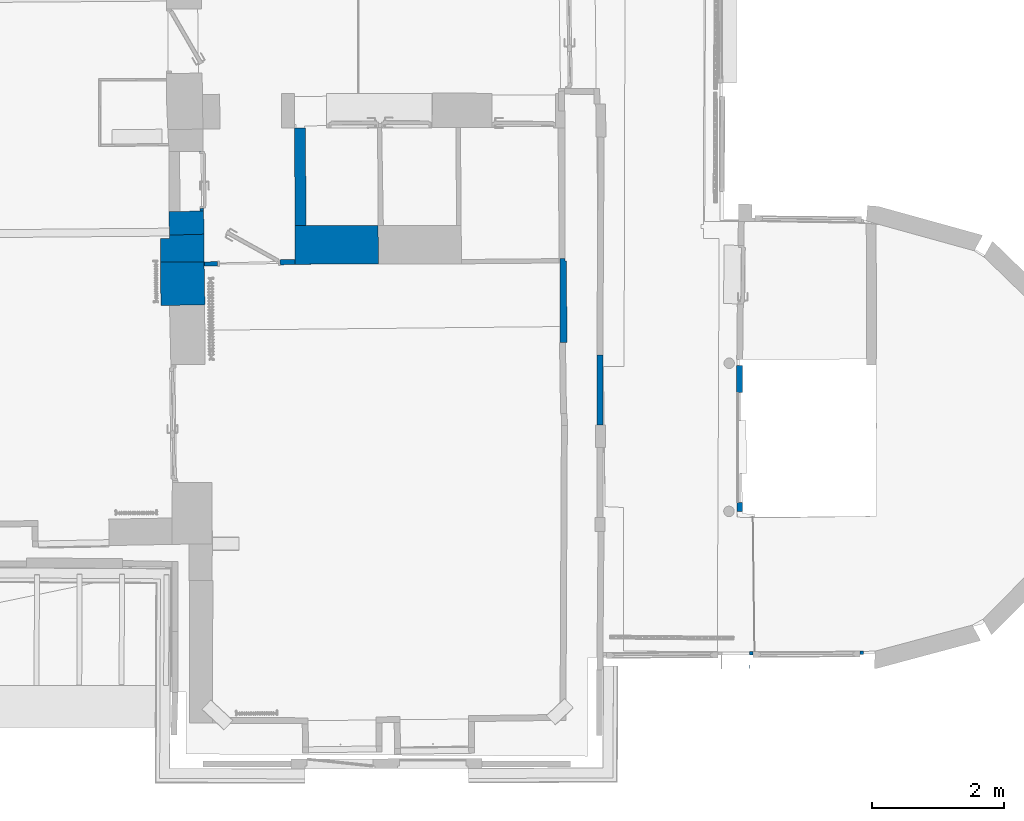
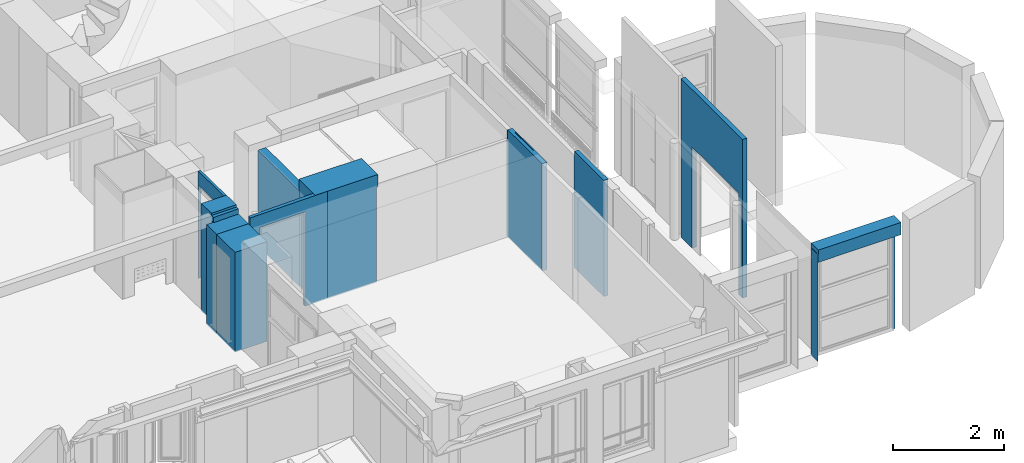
# One storey, part 15 of 72: 11 walls, 4 openings.
"""IFC2X3 building model written with IfcOpenShell, lengths in centimetres."""

from ifc_helpers import new_model, entity, si_unit, converted_unit, direction, frame, origin, origin_with_axes, origin_2d_with_axis, place, context, subcontext, project, spatial, polyline, rectangle, outline, extrude, clip, bounded_halfspace, faceted_brep, shape, material, layer, layer_set, layer_usage, type_object, element, save


model = new_model("IFC2X3")

# Units and contexts
model_context = context("Model", 3, precision=0.0001, world=origin(), true_north=direction((0.225632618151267, 0.974212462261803, 0.0)))
body_context = subcontext(model_context, "Body", "Model", "MODEL_VIEW")
footprint_context = subcontext(model_context, "FootPrint", "Model", "MODEL_VIEW")
profile_context = subcontext(model_context, "Profile", "Model", "MODEL_VIEW")
ifc_project = project(units=[si_unit("LENGTHUNIT", "METRE", prefix="CENTI"), si_unit("AREAUNIT", "SQUARE_METRE", prefix="CENTI"), si_unit("VOLUMEUNIT", "CUBIC_METRE", prefix="CENTI"), converted_unit("PLANEANGLEUNIT", "DEGREE", entity("IfcRatioMeasure", 0.0174532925), si_unit("PLANEANGLEUNIT", "RADIAN"), dimensions=[0, 0, 0, 0, 0, 0, 0])], contexts=[model_context])

# Site, building, storey
site_placement = place(None, origin_with_axes())
site = spatial("IfcSite", under=ifc_project, at=site_placement, Name="Default Site", CompositionType="ELEMENT")
building_placement = place(site_placement, origin_with_axes())
building = spatial("IfcBuilding", under=site, at=building_placement, Name="Default Building", CompositionType="ELEMENT")
storey_placement = place(building_placement, frame((0.0, 0.0, 853.910374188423), z_axis=(0.0, 0.0, 1.0), x_axis=(1.0, 0.0, 0.0)))
storey = spatial("IfcBuildingStorey", under=building, at=storey_placement, Name="Niveau 2", CompositionType="ELEMENT", Elevation=853.910374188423)

# Wall, opening
ifc_material = material(Name="<aucun>")
ifc_layer_1 = layer(ifc_material, 26.0)
ifc_layer_set_1 = layer_set([ifc_layer_1], Name="default")
ifc_layer_usage_1 = layer_usage(ifc_layer_set_1, "AXIS2", "POSITIVE", -13.0)
wall_type_1 = type_object("IfcWallType", Name="default 260", PredefinedType="NOTDEFINED", material=ifc_layer_set_1)
wall_1_placement = place(storey_placement, frame((1116.8410202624, -885.676642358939, 7.46069872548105e-12), z_axis=(0.0, 0.0, 1.0), x_axis=(0.999994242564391, 0.0033933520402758, 0.0)))
wall_1 = element("IfcWallStandardCase", 1, at=wall_1_placement, inside=storey, type_object=wall_type_1, material=ifc_layer_usage_1, Name="Enveloppe 537518", context=body_context, shape_type="Clipping", body=[
    clip(extrude(outline(polyline([(-0.336796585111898, 13.0054665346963), (-0.0651161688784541, -12.9997790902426), (172.02307407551, -13.000252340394), (172.02307407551, 13.0000000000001), (-0.336796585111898, 13.0054665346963)])), frame((0.0, 0.0, -7.28306304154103e-12), z_axis=(0.0, 0.0, 1.0), x_axis=(1.0, 0.0, 0.0)), (0.0, 0.0, 1.0), 244.999999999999), bounded_halfspace(frame((-0.0651206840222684, -13.0011096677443, 234.999999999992), z_axis=(0.0, 0.0, -1.0), x_axis=(0.99985477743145, 0.0170418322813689, 0.0)), True, frame((-0.0651206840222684, -13.0011096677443, 234.999999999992), z_axis=(0.0, 0.0, 1.0), x_axis=(1.0, 0.0, 0.0)), polyline([(-0.27167590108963, 26.0065762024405), (0.0, 0.0), (0.0651048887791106, 0.00110966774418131), (0.0651206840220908, 26.0063395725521), (-0.27167590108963, 26.0065762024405)]))),
])
opening_1_placement = place(wall_1_placement, frame((-0.00786989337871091, 1.13686837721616e-13, -1.79412040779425e-13), z_axis=(0.0, 0.0, 1.0), x_axis=(-1.0, 1.36522737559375e-15, 0.0)))
cartesian_point_1 = entity("IfcCartesianPoint", [0.0, 0.0, 218.0])
cartesian_point_2 = entity("IfcCartesianPoint", [-172.091475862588, -12.9999999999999])
element("IfcOpeningElement", 2, at=opening_1_placement, cuts=wall_1, Name="4294966489_11", ObjectType="Opening", shapes=[
    shape(body_context, "Body", "Brep", [faceted_brep([(-5.00003132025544, -32.9999991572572, 218.000007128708), (-167.091456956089, -32.9999991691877, 218.000007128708), (-167.091456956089, -32.9999991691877, -2.33888698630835e-05), (-5.00003132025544, -32.9999991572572, -2.33888698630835e-05), (-0.00786043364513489, 33.0000193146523, -2.33888698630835e-05), (-172.091466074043, 33.0000193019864, -2.33888698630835e-05), (-172.091466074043, 33.0000193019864, 218.000007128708), (-0.00786043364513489, 33.0000193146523, 218.000007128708), (-5.00003132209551, -8.00004613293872, -2.33888698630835e-05), (-5.00003132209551, -8.00004613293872, 218.000007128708), (-4.99997932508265, -8.00004613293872, 218.000007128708), (-4.99997932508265, -8.00004613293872, -2.33888698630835e-05), (-2.68022489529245e-05, -8.00004613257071, -2.33888698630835e-05), (-2.68022489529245e-05, -8.00004613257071, 218.000007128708), (-2.68022489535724e-05, -8.00003732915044, 218.000007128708), (-2.68022489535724e-05, -8.00003732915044, -2.33888698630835e-05), (-2.68052666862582e-05, 32.9999927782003, -2.33888698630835e-05), (-2.68052666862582e-05, 32.9999927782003, 218.000007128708), (-167.091456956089, -33.0000452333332, -2.33888698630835e-05), (-167.091500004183, -7.99999651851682, -2.33888698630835e-05), (-172.091452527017, -8.00000532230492, -2.33888698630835e-05), (-172.091466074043, 33.0000247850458, -2.33888698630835e-05), (-4.03492744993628e-05, 32.9999927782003, -2.33888698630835e-05), (-167.091456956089, -33.0000452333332, 218.000007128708), (-167.091456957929, -7.99999651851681, 218.000007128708), (-167.091456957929, -7.99999651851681, -2.33888698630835e-05), (-167.091500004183, -7.99999651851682, 218.000007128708), (-172.091452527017, -7.99999651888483, 218.000007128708), (-172.091452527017, -7.99999651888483, -2.33888698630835e-05), (-172.091452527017, -8.00000532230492, 218.000007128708), (-172.091452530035, 33.0000247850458, 218.000007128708), (-172.091452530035, 33.0000247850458, -2.33888698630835e-05), (-4.03492744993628e-05, 32.9999927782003, 218.000007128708), (-172.091466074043, 33.0000247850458, 218.000007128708)], [[[0, 1, 2, 3]], [[4, 5, 6, 7]], [[0, 3, 8, 9]], [[10, 11, 12, 13]], [[14, 15, 16, 17]], [[3, 18, 19, 20, 21, 22, 15, 11]], [[18, 23, 24, 25]], [[19, 26, 27, 28]], [[20, 29, 30, 31]], [[10, 14, 32, 33, 29, 26, 23, 0]]])]),
    shape(profile_context, "Profile", "GeometricCurveSet", [entity("IfcGeometricCurveSet", [entity("IfcPolyline", [cartesian_point_1, entity("IfcCartesianPoint", [0.0, 0.0, -1.77635683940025e-13]), entity("IfcCartesianPoint", [-172.091475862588, 1.77635683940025e-13, -1.77635683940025e-13]), entity("IfcCartesianPoint", [-172.091475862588, 1.77635683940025e-13, 218.0]), cartesian_point_1])])]),
    shape(footprint_context, "FootPrint", "GeometricCurveSet", [entity("IfcGeometricCurveSet", [entity("IfcPolyline", [cartesian_point_2, entity("IfcCartesianPoint", [0.0, -13.0000000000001]), entity("IfcCartesianPoint", [-1.77635683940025e-13, 13.0000000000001]), entity("IfcCartesianPoint", [-172.091475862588, 13.0000000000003]), cartesian_point_2])])]),
])

# Wall
ifc_layer_2 = layer(ifc_material, 9.0)
ifc_layer_set_2 = layer_set([ifc_layer_2], Name="default")
ifc_layer_usage_2 = layer_usage(ifc_layer_set_2, "AXIS2", "POSITIVE", -4.5)
wall_type_2 = type_object("IfcWallType", Name="default 90", PredefinedType="NOTDEFINED", material=ifc_layer_set_2)
wall_2_placement = place(storey_placement, frame((889.982516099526, -529.735904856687, -1.95399252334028e-11), z_axis=(0.0, 0.0, 1.0), x_axis=(0.000515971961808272, 0.999999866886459, 0.0)))
element("IfcWallStandardCase", 3, at=wall_2_placement, inside=storey, type_object=wall_type_2, material=ifc_layer_usage_2, Name="Enveloppe 462850", context=body_context, shape_type="Clipping", body=[
    clip(clip(extrude(outline(polyline([(105.996942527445, 4.56889412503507), (105.996978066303, 4.50001663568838), (0.100191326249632, 4.49999999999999), (0.100191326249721, -4.49999999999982), (105.964772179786, -4.49999664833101), (105.964736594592, -4.43102935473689), (106.059335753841, -4.43098054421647), (106.110050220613, 4.56825676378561), (105.996942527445, 4.56889412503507)])), frame((0.0, 0.0, 1.98951966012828e-11), z_axis=(0.0, 0.0, 1.0), x_axis=(1.0, 0.0, 0.0)), (0.0, 0.0, 1.0), 254.621625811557), bounded_halfspace(frame((105.964736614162, -4.4999999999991, 245.000000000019), z_axis=(0.0, 0.0, 1.0), x_axis=(-0.0890524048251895, 0.9960269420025, 0.0)), True, frame((105.964736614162, -4.4999999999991, 245.000000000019), z_axis=(0.0, 0.0, 1.0), x_axis=(1.0, 0.0, 0.0)), polyline([(8.88178419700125e-14, 0.0), (8.88178419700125e-14, 0.0689327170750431), (8.88178419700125e-14, 0.0)]))), bounded_halfspace(frame((106.110050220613, 4.56825676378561, 245.000000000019), z_axis=(0.0, 0.0, -1.0), x_axis=(-0.999984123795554, 0.00563490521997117, 0.0)), True, frame((106.110050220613, 4.56825676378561, 245.000000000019), z_axis=(0.0, 0.0, 1.0), x_axis=(1.0, 0.0, 0.0)), polyline([(-0.145313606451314, -8.99932404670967), (-0.0507141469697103, -8.99985711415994), (1.77635683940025e-13, 0.0), (-0.113107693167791, 0.000637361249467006), (-0.113401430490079, -0.0682567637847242), (-0.145313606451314, -0.0682567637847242), (-0.145313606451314, -8.99932404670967)]))),
])

# Wall, opening
ifc_layer_usage_3 = layer_usage(ifc_layer_set_2, "AXIS2", "POSITIVE", -4.5)
wall_3_placement = place(storey_placement, frame((1101.7308929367, -669.370983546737, 1.99999999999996), z_axis=(0.0, 0.0, 1.0), x_axis=(-0.000462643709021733, 0.999999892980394, 0.0)))
wall_3 = element("IfcWallStandardCase", 4, at=wall_3_placement, inside=storey, type_object=wall_type_2, material=ifc_layer_usage_3, Name="Enveloppe 1528659", context=body_context, shape_type="SweptSolid", body=[
    extrude(outline(polyline([(229.6970725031, 4.50000000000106), (8.68817364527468, 4.49999999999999), (8.728404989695, -4.49999999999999), (229.714215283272, -4.49999999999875), (229.6970725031, 4.50000000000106)])), frame((0.0, 0.0, -3.5527136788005e-13), z_axis=(0.0, 0.0, 1.0), x_axis=(1.0, 0.0, 0.0)), (0.0, 0.0, 1.0), 347.702416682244),
])
opening_2_placement = place(wall_3_placement, frame((22.0887177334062, 0.0, -5.31130694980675e-13), z_axis=(0.0, 0.0, 1.0), x_axis=(-1.0, -5.98577177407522e-15, 0.0)))
cartesian_point_3 = entity("IfcCartesianPoint", [0.0, 0.0, 221.6])
cartesian_point_4 = entity("IfcCartesianPoint", [-166.962547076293, -4.49999999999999])
element("IfcOpeningElement", 5, at=opening_2_placement, cuts=wall_3, Name="Baie 1533937", ObjectType="Opening", shapes=[
    shape(body_context, "Body", "SweptSolid", [extrude(outline(polyline([(8.88178419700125e-14, 221.6), (8.88178419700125e-14, -1.77635683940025e-13), (166.962547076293, -1.77635683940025e-13), (166.962547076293, 221.6), (8.88178419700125e-14, 221.6)])), frame((0.0, -14.5, 0.0), z_axis=(0.0, 1.0, 0.0), x_axis=(-1.0, 0.0, 0.0)), (0.0, 0.0, 1.0), 29.0)]),
    shape(profile_context, "Profile", "GeometricCurveSet", [entity("IfcGeometricCurveSet", [entity("IfcPolyline", [cartesian_point_3, entity("IfcCartesianPoint", [0.0, 0.0, -1.77635683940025e-13]), entity("IfcCartesianPoint", [-166.962547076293, 0.0, -1.77635683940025e-13]), entity("IfcCartesianPoint", [-166.962547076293, 0.0, 221.6]), cartesian_point_3])])]),
    shape(footprint_context, "FootPrint", "GeometricCurveSet", [entity("IfcGeometricCurveSet", [entity("IfcPolyline", [cartesian_point_4, entity("IfcCartesianPoint", [-8.88178419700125e-14, -4.49999999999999]), entity("IfcCartesianPoint", [0.0, 4.49999999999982]), entity("IfcCartesianPoint", [-166.962547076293, 4.49999999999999]), cartesian_point_4])])]),
])

# Wall
ifc_layer_usage_4 = layer_usage(ifc_layer_set_2, "AXIS2", "POSITIVE", -4.5)
wall_4_placement = place(storey_placement, frame((834.359518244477, -404.942311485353, 1.4210854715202e-12), z_axis=(0.0, 0.0, 1.0), x_axis=(-0.00236515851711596, 0.999997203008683, 0.0)))
element("IfcWallStandardCase", 6, at=wall_4_placement, inside=storey, type_object=wall_type_2, material=ifc_layer_usage_4, Name="Enveloppe 150644", context=body_context, shape_type="Clipping", body=[
    clip(clip(clip(extrude(outline(polyline([(123.387647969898, 5.59363078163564), (123.394996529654, 4.50009262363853), (0.0, 4.49999999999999), (-8.88178419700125e-14, -5.86290742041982), (123.387304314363, -5.41801467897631), (123.387305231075, -3.40633806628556), (127.156160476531, -3.41152562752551), (127.1029778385, 4.49999999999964), (123.434158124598, 4.49999999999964), (123.426807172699, 5.59353816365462), (123.387647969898, 5.59363078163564)])), frame((0.0, 0.0, -3.5527136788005e-13), z_axis=(0.0, 0.0, 1.0), x_axis=(1.0, 0.0, 0.0)), (0.0, 0.0, 1.0), 234.999999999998), bounded_halfspace(frame((123.387647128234, 5.59327492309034, 214.999999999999), z_axis=(0.0, 0.0, 1.0), x_axis=(0.999977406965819, 0.00672202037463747, 0.0)), True, frame((123.387647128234, 5.59327492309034, 214.999999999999), z_axis=(0.0, 0.0, 1.0), x_axis=(1.0, 0.0, 0.0)), polyline([(0.00734918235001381, -1.0932749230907), (-4.44089209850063e-14, -1.77635683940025e-13), (0.0391600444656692, 0.000263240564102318), (0.0465109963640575, -1.09327492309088), (0.00734918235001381, -1.0932749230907)]))), bounded_halfspace(frame((33.7815067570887, -3.12570763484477, 209.999999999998), z_axis=(0.0, 0.0, -1.0), x_axis=(0.000322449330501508, -0.999999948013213, 0.0)), True, frame((33.7815067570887, -3.12570763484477, 209.999999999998), z_axis=(0.0, 0.0, 1.0), x_axis=(1.0, 0.0, 0.0)), polyline([(9.9930702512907e-05, -0.309911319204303), (75.1492245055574, -0.285679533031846), (75.1488259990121, 0.950193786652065), (0.0, -1.77635683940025e-13), (9.9930702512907e-05, -0.309911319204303)]))), bounded_halfspace(frame((123.434158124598, 4.49999999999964, 214.999999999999), z_axis=(0.0, 0.0, -1.0), x_axis=(0.00672202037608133, -0.999977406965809, 0.0)), True, frame((123.434158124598, 4.49999999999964, 214.999999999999), z_axis=(0.0, 0.0, 1.0), x_axis=(1.0, 0.0, 0.0)), polyline([(-4.44089209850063e-14, -1.77635683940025e-13), (0.053149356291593, -7.90657458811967), (3.72200235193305, -7.91152562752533), (3.66881971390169, -1.77635683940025e-13), (-4.44089209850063e-14, -1.77635683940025e-13)]))),
])

# Wall, opening
ifc_layer_3 = layer(ifc_material, 6.5)
ifc_layer_set_3 = layer_set([ifc_layer_3], Name="default")
ifc_layer_usage_5 = layer_usage(ifc_layer_set_3, "AXIS2", "POSITIVE", -3.25)
wall_type_3 = type_object("IfcWallType", Name="default 65", PredefinedType="NOTDEFINED", material=ifc_layer_set_3)
wall_5_placement = place(storey_placement, frame((291.124762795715, -286.269680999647, 1.4210854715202e-12), z_axis=(0.0, 0.0, 1.0), x_axis=(0.999829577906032, 0.0184611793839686, 0.0)))
wall_5 = element("IfcWallStandardCase", 7, at=wall_5_placement, inside=storey, type_object=wall_type_3, material=ifc_layer_usage_5, Name="Enveloppe 150684", context=body_context, shape_type="Clipping", body=[
    clip(clip(extrude(outline(polyline([(0.0, 3.24999999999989), (-4.44089209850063e-14, -3.24999999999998), (162.203874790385, -3.24999999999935), (137.831291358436, -2.83401987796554), (137.831291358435, 4.64920562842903), (0.0, 3.24999999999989)])), frame((0.0, 0.0, -3.5527136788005e-13), z_axis=(0.0, 0.0, 1.0), x_axis=(1.0, 0.0, 0.0)), (0.0, 0.0, 1.0), 234.999999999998), bounded_halfspace(frame((0.0, 3.24999999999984, 218.5), z_axis=(0.0, 0.0, 1.0), x_axis=(0.999948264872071, 0.0101719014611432, 0.0)), True, frame((0.0, 3.24999999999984, 218.5), z_axis=(0.0, 0.0, 1.0), x_axis=(1.0, 0.0, 0.0)), polyline([(-8.88178419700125e-14, -6.49999999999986), (0.0, -4.44089209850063e-14), (0.204539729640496, 0.00208066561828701), (0.104233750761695, -6.49999999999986), (-8.88178419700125e-14, -6.49999999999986)]))), bounded_halfspace(frame((137.831291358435, 4.64920562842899, 208.999999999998), z_axis=(0.0, 0.0, -1.0), x_axis=(-0.999948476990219, -0.0101510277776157, 0.0)), True, frame((137.831291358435, 4.64920562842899, 208.999999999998), z_axis=(0.0, 0.0, 1.0), x_axis=(1.0, 0.0, 0.0)), polyline([(-1.11068026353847, -7.46426892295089), (8.88178419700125e-14, -7.48322550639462), (8.88178419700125e-14, 0.0), (-1.11068026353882, -0.0112751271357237), (-1.11068026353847, -7.46426892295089)]))),
])
opening_3_placement = place(wall_5_placement, frame((20.4906268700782, 0.0, 0.0), z_axis=(0.0, 0.0, 1.0), x_axis=(1.0, 4.09394740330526e-15, 0.0)))
cartesian_point_5 = entity("IfcCartesianPoint", [4.44089209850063e-14, 4.44089209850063e-14, 207.0])
cartesian_point_6 = entity("IfcCartesianPoint", [94.6708195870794, 4.42147149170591])
element("IfcOpeningElement", 8, at=opening_3_placement, cuts=wall_5, Name="4294966406_11", ObjectType="Opening", shapes=[
    shape(body_context, "Body", "SweptSolid", [extrude(outline(polyline([(-0.00106008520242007, 207.0), (-0.00106008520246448, 0.0), (94.6648616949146, 0.0), (94.6648616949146, 207.0), (-0.00106008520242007, 207.0)])), frame((0.0, 13.25, 0.0), z_axis=(0.0, -1.0, 0.0), x_axis=(1.0, 0.0, 0.0)), (0.0, 0.0, 1.0), 27.902078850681)]),
    shape(profile_context, "Profile", "GeometricCurveSet", [entity("IfcGeometricCurveSet", [entity("IfcPolyline", [cartesian_point_5, entity("IfcCartesianPoint", [0.0, 4.44089209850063e-14, 0.0]), entity("IfcCartesianPoint", [94.6708195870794, 0.0, 0.0]), entity("IfcCartesianPoint", [94.6708195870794, 0.0, 207.0]), cartesian_point_5])])]),
    shape(footprint_context, "FootPrint", "GeometricCurveSet", [entity("IfcGeometricCurveSet", [entity("IfcPolyline", [cartesian_point_6, entity("IfcCartesianPoint", [0.0, 3.45843942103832]), entity("IfcCartesianPoint", [0.0, -3.25000000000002]), entity("IfcCartesianPoint", [94.6708195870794, -3.24999999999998]), cartesian_point_6])])]),
])

ifc_layer_4 = layer(ifc_material, 5.0)
ifc_layer_set_4 = layer_set([ifc_layer_4], Name="default")
ifc_layer_usage_6 = layer_usage(ifc_layer_set_4, "AXIS2", "POSITIVE", -2.5)
wall_type_4 = type_object("IfcWallType", Name="default 50", PredefinedType="NOTDEFINED", material=ifc_layer_set_4)
wall_6_placement = place(storey_placement, frame((287.522910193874, -206.23570437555, 1.4210854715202e-12), z_axis=(0.0, 0.0, 1.0), x_axis=(-0.0117630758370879, 0.99993081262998, 0.0)))
wall_6 = element("IfcWallStandardCase", 9, at=wall_6_placement, inside=storey, type_object=wall_type_4, material=ifc_layer_usage_6, Name="Enveloppe 152355", context=body_context, shape_type="SweptSolid", body=[
    extrude(rectangle(XDim=5.00000000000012, YDim=90.4563549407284, at=origin_2d_with_axis()), frame((45.2469742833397, 3.99680288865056e-13, 0.0), z_axis=(0.0, 0.0, 1.0), x_axis=(-3.13984949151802e-16, -1.0, 0.0)), (0.0, 0.0, 1.0), 234.999999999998),
])
opening_4_placement = place(wall_6_placement, frame((4.44700015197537, -5.6843418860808e-14, 1.77635683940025e-13), z_axis=(0.0, 0.0, 1.0), x_axis=(-1.0, -8.84882445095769e-15, 0.0)))
cartesian_point_7 = entity("IfcCartesianPoint", [-4.44089209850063e-14, 0.0, 204.0])
cartesian_point_8 = entity("IfcCartesianPoint", [-85.5365855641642, -2.49999999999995])
element("IfcOpeningElement", 10, at=opening_4_placement, cuts=wall_6, Name="4294966407_11", ObjectType="Opening", shapes=[
    shape(body_context, "Body", "SweptSolid", [extrude(outline(polyline([(8.88178419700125e-14, 204.0), (4.44089209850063e-14, 0.0), (85.5365855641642, 0.0), (85.5365855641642, 204.0), (8.88178419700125e-14, 204.0)])), frame((0.0, -12.5, 0.0), z_axis=(0.0, 1.0, 0.0), x_axis=(-1.0, 0.0, 0.0)), (0.0, 0.0, 1.0), 25.0)]),
    shape(profile_context, "Profile", "GeometricCurveSet", [entity("IfcGeometricCurveSet", [entity("IfcPolyline", [cartesian_point_7, entity("IfcCartesianPoint", [0.0, 0.0, 0.0]), entity("IfcCartesianPoint", [-85.5365855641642, 4.44089209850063e-14, 0.0]), entity("IfcCartesianPoint", [-85.5365855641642, 4.44089209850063e-14, 204.0]), cartesian_point_7])])]),
    shape(footprint_context, "FootPrint", "GeometricCurveSet", [entity("IfcGeometricCurveSet", [entity("IfcPolyline", [cartesian_point_8, entity("IfcCartesianPoint", [-4.44089209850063e-14, -2.49999999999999]), entity("IfcCartesianPoint", [0.0, 2.49999999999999]), entity("IfcCartesianPoint", [-85.5365855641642, 2.50000000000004]), cartesian_point_8])])]),
])

# Walls
ifc_layer_5 = layer(ifc_material, 58.5635131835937)
ifc_layer_set_5 = layer_set([ifc_layer_5], Name="default")
ifc_layer_usage_7 = layer_usage(ifc_layer_set_5, "AXIS2", "POSITIVE", -29.282)
wall_type_5 = type_object("IfcWallType", Name="default 585.635131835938", PredefinedType="NOTDEFINED", material=ifc_layer_set_5)
wall_7_placement = place(storey_placement, frame((427.705921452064, -257.278689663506, 1.4210854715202e-12), z_axis=(0.0, 0.0, 1.0), x_axis=(0.999999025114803, 0.00139634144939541, 0.0)))
element("IfcWallStandardCase", 11, at=wall_7_placement, inside=storey, type_object=wall_type_5, material=ifc_layer_usage_7, Name="Enveloppe 205508", context=body_context, shape_type="Clipping", body=[
    clip(clip(clip(extrude(outline(polyline([(8.88178419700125e-14, 29.2817573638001), (8.88178419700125e-14, -21.8269992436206), (0.127234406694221, -29.2817573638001), (130.242979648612, -29.2817573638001), (130.242979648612, 29.2817573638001), (8.88178419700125e-14, 29.2817573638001)])), frame((0.0, 0.0, -5.32907051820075e-13), z_axis=(0.0, 0.0, 1.0), x_axis=(1.0, 0.0, 0.0)), (0.0, 0.0, 1.0), 234.999999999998), bounded_halfspace(frame((126.920228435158, 29.2817573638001, 208.0), z_axis=(0.0, 0.0, 1.0), x_axis=(1.0, 1.15077218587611e-15, 0.0)), True, frame((126.920228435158, 29.2817573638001, 208.0), z_axis=(0.0, 0.0, 1.0), x_axis=(1.0, 0.0, 0.0)), polyline([(0.0, -58.5635147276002), (8.88178419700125e-14, 0.0), (3.32275121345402, 0.0), (3.32275121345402, -58.5635147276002), (0.0, -58.5635147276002)]))), bounded_halfspace(frame((8.88178419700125e-14, -21.8269992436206, 208.999999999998), z_axis=(0.0, 0.0, 1.0), x_axis=(0.999696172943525, 0.0246487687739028, 0.0)), True, frame((8.88178419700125e-14, -21.8269992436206, 208.999999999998), z_axis=(0.0, 0.0, 1.0), x_axis=(1.0, 0.0, 0.0)), polyline([(0.0, 0.0), (1.11037475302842, 0.0273776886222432), (1.23807642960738, -7.45475812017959), (0.127234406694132, -7.45475812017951), (0.0, 0.0)]))), bounded_halfspace(frame((1.11037475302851, -21.7996215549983, 208.999999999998), z_axis=(0.0, 0.0, 1.0), x_axis=(-0.999696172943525, -0.0246487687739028, 0.0)), True, frame((1.11037475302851, -21.7996215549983, 208.999999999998), z_axis=(0.0, 0.0, 1.0), x_axis=(1.0, 0.0, 0.0)), polyline([(-1.11037475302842, -0.0273776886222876), (-1.11037475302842, 51.0813789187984), (16.5516945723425, 51.0813789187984), (-0.104388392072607, 51.0059464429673), (0.12659297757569, 0.0034463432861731), (-1.11037475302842, -0.0273776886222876)]))),
])
ifc_layer_6 = layer(ifc_material, 66.0)
ifc_layer_set_6 = layer_set([ifc_layer_6], Name="default")
ifc_layer_usage_8 = layer_usage(ifc_layer_set_6, "AXIS2", "POSITIVE", -33.0)
wall_type_6 = type_object("IfcWallType", Name="default 660", PredefinedType="NOTDEFINED", material=ifc_layer_set_6)
wall_8_placement = place(storey_placement, frame((258.279760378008, -286.532037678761, 1.4210854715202e-12), z_axis=(0.0, 0.0, 1.0), x_axis=(-0.00303669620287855, 0.999995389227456, 0.0)))
element("IfcWallStandardCase", 12, at=wall_8_placement, inside=storey, type_object=wall_type_6, material=ifc_layer_usage_8, Name="Enveloppe 150855", context=body_context, shape_type="SweptSolid", body=[
    extrude(outline(polyline([(38.7677104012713, 33.0), (3.41746394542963, 33.0), (3.41808416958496, -32.7957578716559), (-3.08699816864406, -32.8957786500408), (-3.08539037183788, -33.0000000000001), (45.4040016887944, -33.0), (44.1387177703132, 19.4847507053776), (38.7677104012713, 19.3552683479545), (38.7677104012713, 33.0)])), frame((0.0, 0.0, -3.5527136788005e-13), z_axis=(0.0, 0.0, 1.0), x_axis=(1.0, 0.0, 0.0)), (0.0, 0.0, 1.0), 218.5),
])
ifc_layer_7 = layer(ifc_material, 66.5)
ifc_layer_set_7 = layer_set([ifc_layer_7], Name="default")
ifc_layer_usage_9 = layer_usage(ifc_layer_set_7, "AXIS2", "POSITIVE", -33.25)
wall_type_7 = type_object("IfcWallType", Name="default 665", PredefinedType="NOTDEFINED", material=ifc_layer_set_7)
wall_9_placement = place(storey_placement, frame((259.013294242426, -348.393041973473, 1.4210854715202e-12), z_axis=(0.0, 0.0, 1.0), x_axis=(-0.0184119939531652, 0.999830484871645, 0.0)))
element("IfcWallStandardCase", 13, at=wall_9_placement, inside=storey, type_object=wall_type_7, material=ifc_layer_usage_9, Name="Enveloppe 150856", context=body_context, shape_type="SweptSolid", body=[
    extrude(outline(polyline([(65.7884827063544, 32.537978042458), (19.4857772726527, 33.2500000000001), (0.0, 33.2500000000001), (4.44089209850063e-14, 20.3694948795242), (-0.352755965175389, -32.6782277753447), (1.13045728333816e-06, -32.680512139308), (4.44089209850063e-14, -33.25), (64.7768250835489, -33.25), (65.7884827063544, 32.537978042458)])), frame((0.0, 0.0, 3.5527136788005e-13), z_axis=(0.0, 0.0, 1.0), x_axis=(1.0, 0.0, 0.0)), (0.0, 0.0, 1.0), 218.499999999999),
])
ifc_layer_8 = layer(ifc_material, 16.6562530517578)
ifc_layer_set_8 = layer_set([ifc_layer_8], Name="default")
ifc_layer_usage_10 = layer_usage(ifc_layer_set_8, "AXIS2", "POSITIVE", -8.328)
wall_type_8 = type_object("IfcWallType", Name="default 166.562530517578", PredefinedType="NOTDEFINED", material=ifc_layer_set_8)
wall_10_placement = place(storey_placement, frame((437.00369265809, -228.795815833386, 1.4210854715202e-12), z_axis=(0.0, 0.0, 1.0), x_axis=(-0.00592510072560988, 0.999982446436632, 0.0)))
element("IfcWallStandardCase", 14, at=wall_10_placement, inside=storey, type_object=wall_type_8, material=ifc_layer_usage_10, Name="Enveloppe 150651", context=body_context, shape_type="SweptSolid", body=[
    extrude(outline(polyline([(148.331414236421, 8.32812688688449), (0.849619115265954, 8.32812688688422), (0.774185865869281, -8.32812688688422), (148.247702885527, -8.32812688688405), (148.331414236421, 8.32812688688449)])), frame((0.0, 0.0, -1.06581410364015e-12), z_axis=(0.0, 0.0, 1.0), x_axis=(1.0, 0.0, 0.0)), (0.0, 0.0, 1.0), 208.999999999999),
])
ifc_layer_9 = layer(ifc_material, 52.5)
ifc_layer_set_9 = layer_set([ifc_layer_9], Name="default")
ifc_layer_usage_11 = layer_usage(ifc_layer_set_9, "AXIS2", "POSITIVE", -26.25)
wall_type_9 = type_object("IfcWallType", Name="default 525", PredefinedType="NOTDEFINED", material=ifc_layer_set_9)
wall_11_placement = place(storey_placement, frame((265.084665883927, -248.491512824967, 1.4210854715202e-12), z_axis=(0.0, 0.0, 1.0), x_axis=(-0.0271363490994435, 0.999631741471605, 0.0)))
element("IfcWallStandardCase", 15, at=wall_11_placement, inside=storey, type_object=wall_type_9, material=ifc_layer_usage_11, Name="Enveloppe 152192", context=body_context, shape_type="Clipping", body=[
    clip(clip(clip(extrude(outline(polyline([(42.8476168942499, 26.0947226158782), (36.4066160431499, 26.2500000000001), (0.0, 26.25), (-4.44089209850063e-14, -26.25), (41.5098810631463, -26.2500000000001), (41.5117543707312, -26.0739296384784), (41.6117106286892, -26.0766430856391), (41.7490121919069, -17.7909541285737), (42.4093589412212, 9.60061731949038), (42.4499562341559, 9.5995152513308), (42.8476168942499, 26.0947226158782)])), frame((0.0, 0.0, -3.5527136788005e-13), z_axis=(0.0, 0.0, 1.0), x_axis=(1.0, 0.0, 0.0)), (0.0, 0.0, 1.0), 234.999999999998), bounded_halfspace(frame((-4.44089209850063e-14, -26.25, 218.5), z_axis=(0.0, 0.0, 1.0), x_axis=(2.92602747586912e-13, 1.0, 0.0)), True, frame((-4.44089209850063e-14, -26.25, 218.5), z_axis=(0.0, 0.0, 1.0), x_axis=(1.0, 0.0, 0.0)), polyline([(-4.44089209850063e-14, 0.0), (0.0, 0.162814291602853), (6.75363638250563, 0.0), (-4.44089209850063e-14, 0.0)]))), bounded_halfspace(frame((6.75363638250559, -26.25, 218.5), z_axis=(0.0, 0.0, 1.0), x_axis=(-0.999709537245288, 0.0241006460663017, 0.0)), True, frame((6.75363638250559, -26.25, 218.5), z_axis=(0.0, 0.0, 1.0), x_axis=(1.0, 0.0, 0.0)), polyline([(-6.75363638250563, 0.162814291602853), (-6.75363638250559, 52.5), (0.0, 52.5), (0.0, 0.0), (-6.75363638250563, 0.162814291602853)]))), bounded_halfspace(frame((-4.44089209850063e-14, -26.25, 230.0), z_axis=(0.0, 0.0, -1.0), x_axis=(1.0, 5.70030134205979e-15, 0.0)), True, frame((-4.44089209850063e-14, -26.25, 230.0), z_axis=(0.0, 0.0, 1.0), x_axis=(1.0, 0.0, 0.0)), polyline([(-4.44089209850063e-14, 0.0), (6.34043336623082, 0.0), (7.31425528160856, 52.5), (4.44089209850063e-14, 52.5), (-4.44089209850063e-14, 0.0)]))),
])

save(model, "model.ifc")
